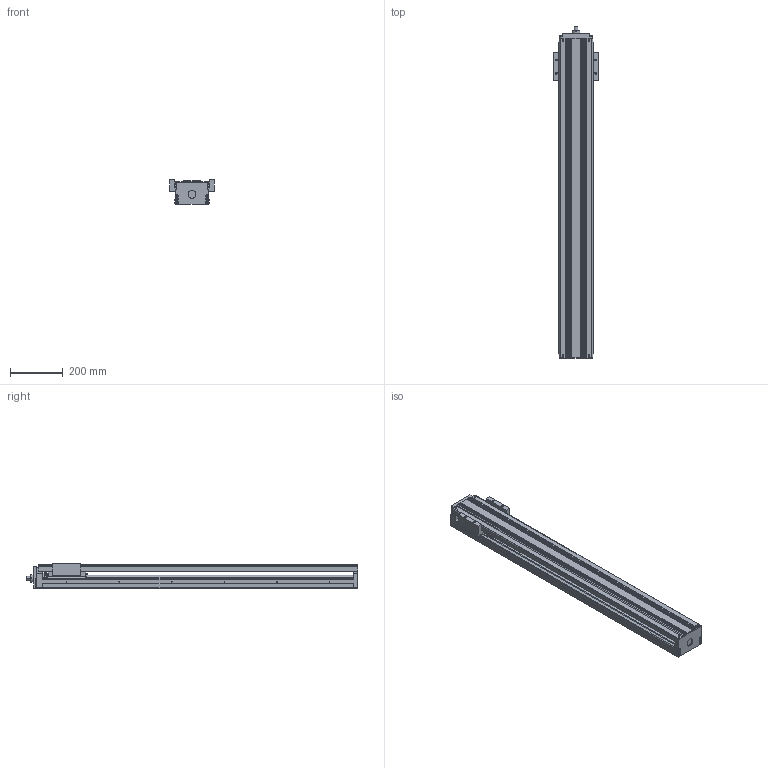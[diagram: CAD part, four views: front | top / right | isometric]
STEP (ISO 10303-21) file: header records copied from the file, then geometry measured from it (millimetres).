
FILE_DESCRIPTION(('no description'),'unknown implementation level');
FILE_NAME('KK13025P1180A1H0C00_FILE_61.stp',' ',('HIWIN GmbH'),('CADClick - KiM GmbH - www.kimweb.de'),'unknown preprocess','ACIS','unknown authorization');
FILE_SCHEMA(('automotive_design'));
Length unit declared in the file: millimetre
Products named in the file (2): KK130_FILE; KK13025P1180A1H0C00_FILE
Bounding box: 170 x 1262 x 94 mm (x, y, z)
Volume: 5808255.1 mm3; surface area: 1151781.1 mm2
Topology: 2 solids, 17 shells, 928 faces, 2324 edges, 1507 vertices
Faces by surface type: plane 574, cylinder 304, torus 46, cone 2, sphere 2
Entity records: 54506 total; most frequent: DIRECTION 4950, CARTESIAN_POINT 4867, STYLED_ITEM 4759, PRESENTATION_STYLE_ASSIGNMENT 4759, COLOUR_RGB 4759, ORIENTED_EDGE 4644, EDGE_CURVE 2322, CURVE_STYLE 2322
